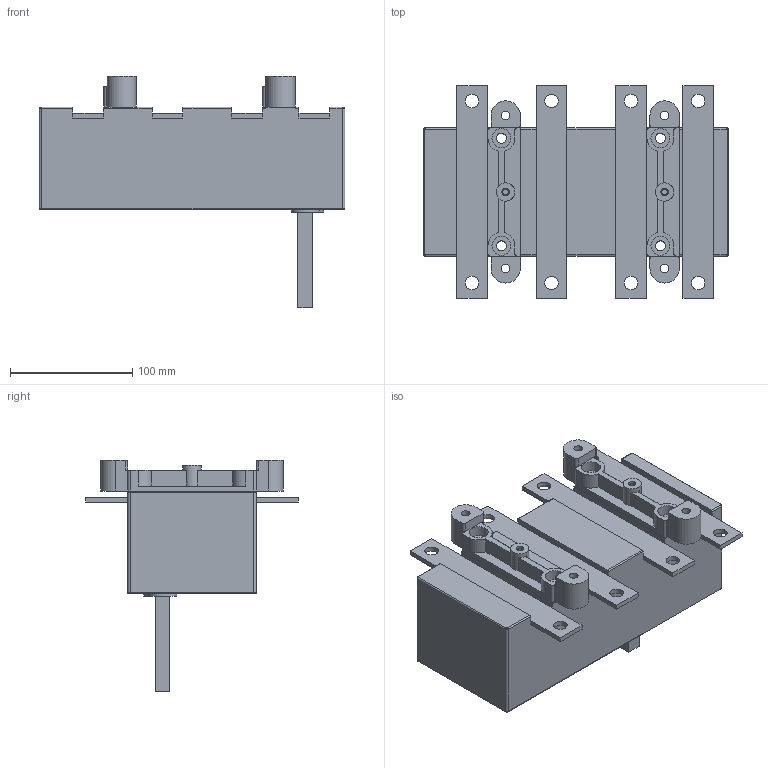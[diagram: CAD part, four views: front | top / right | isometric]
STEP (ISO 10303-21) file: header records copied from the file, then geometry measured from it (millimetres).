
FILE_DESCRIPTION(/* description */ (''),/* implementation_level */ '2;1');
FILE_NAME(/* name */ 'RA400 P3 N.stp',/* time_stamp */ '2021-08-18T13:32:16+02:00',/* author */ (''),/* organization */ (''),/* preprocessor_version */ 'ST-DEVELOPER v18.1',/* originating_system */ 'SIEMENS PLM Software NX 1965',/* authorisation */ '');
FILE_SCHEMA (('AUTOMOTIVE_DESIGN { 1 0 10303 214 3 1 1 1 }'));
Length unit declared in the file: millimetre
Products named in the file (1): RA400_P3_N
Bounding box: 250 x 174 x 189 mm (x, y, z)
Volume: 2251303.1 mm3; surface area: 167660.4 mm2
Topology: 1 solids, 1 shells, 216 faces, 566 edges, 369 vertices
Faces by surface type: plane 120, cylinder 88, bspline 8
Full cylindrical faces by diameter (mm): 4.8 x2, 6.2 x2, 7 x4, 8.2 x4, 11 x8, 14 x4, 15 x2, 15.5 x4
Entity records: 6684 total; most frequent: CARTESIAN_POINT 1264, DIRECTION 1138, ORIENTED_EDGE 1064, EDGE_CURVE 532, AXIS2_PLACEMENT_3D 399, VERTEX_POINT 362, LINE 340, VECTOR 340
